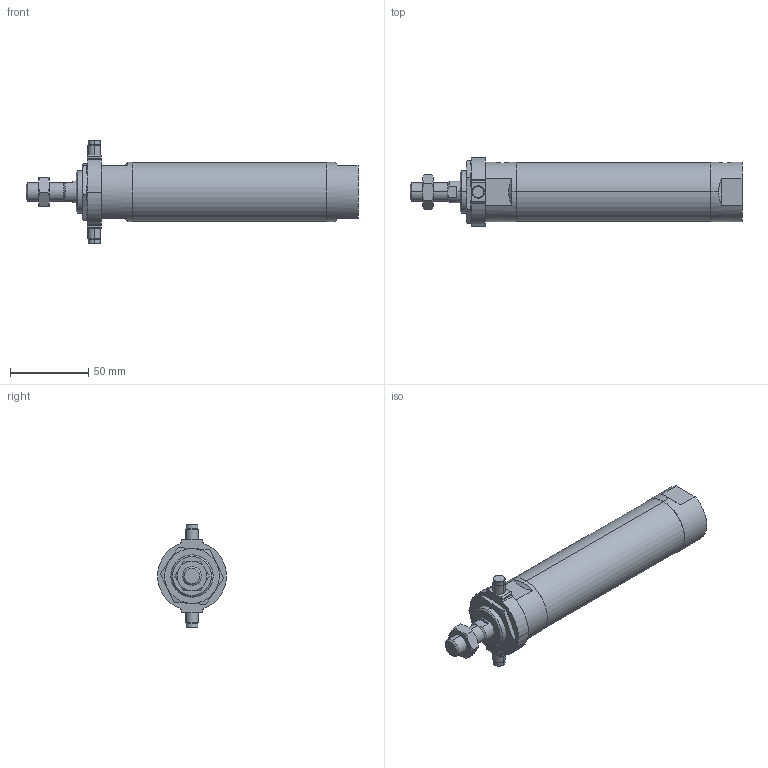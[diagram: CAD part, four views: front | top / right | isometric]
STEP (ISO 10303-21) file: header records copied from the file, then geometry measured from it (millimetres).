
FILE_DESCRIPTION (( 'STEP AP203' ), '1' );
FILE_NAME ('JGND2-32-75-T.STEP', '2016-08-04T02:51:33', ( '' ), ( '' ), 'SwSTEP 2.0', 'SolidWorks 2014', '' );
FILE_SCHEMA (( 'CONFIG_CONTROL_DESIGN' ));
Length unit declared in the file: millimetre
Products named in the file (5): J#2-32-75(P); J#2-32-T; JGND2-32-75-T
Assembly tree (4 placements, depth 2):
  JGND2-32-75-T
    J#2-32-75(P)
    (unnamed)
    (unnamed)
    J#2-32-T
Bounding box: 212 x 44 x 66 mm (x, y, z)
Volume: 205021.9 mm3; surface area: 32743.9 mm2
Topology: 4 solids, 4 shells, 128 faces, 293 edges, 177 vertices
Faces by surface type: plane 42, cylinder 41, torus 24, cone 21
Entity records: 4519 total; most frequent: CARTESIAN_POINT 1160, DIRECTION 614, ORIENTED_EDGE 578, EDGE_CURVE 289, AXIS2_PLACEMENT_3D 253, VERTEX_POINT 177, EDGE_LOOP 142, FACE_OUTER_BOUND 128
